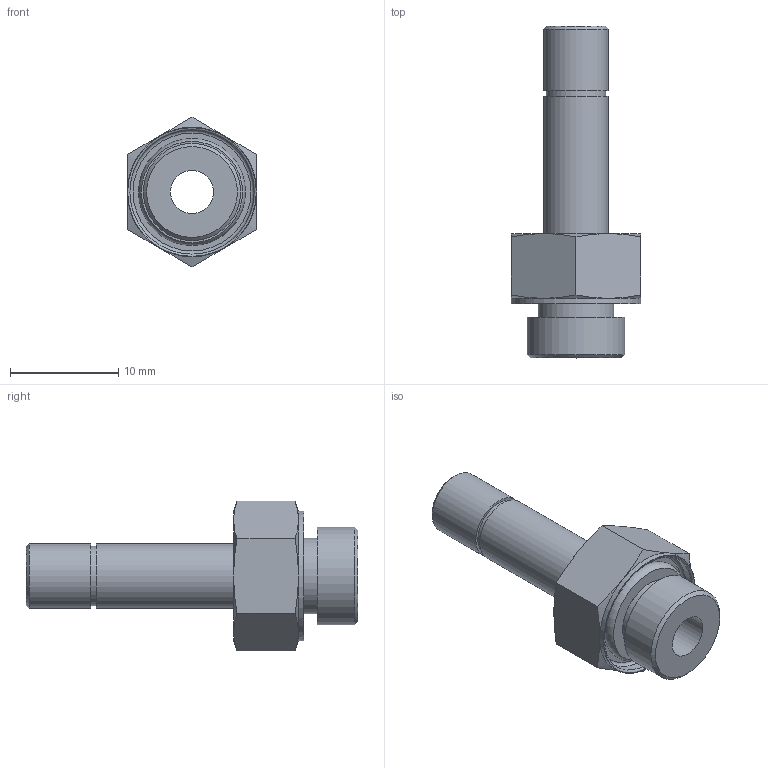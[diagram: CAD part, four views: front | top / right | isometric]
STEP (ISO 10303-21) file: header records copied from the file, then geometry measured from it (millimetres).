
FILE_DESCRIPTION(/* description */ (''),/* implementation_level */ '2;1');
FILE_NAME(/* name */ 'LXH16 0006 B1.stp',/* time_stamp */ '2026-04-29T15:25:21+02:00',/* author */ ('freju'),/* organization */ (''),/* preprocessor_version */ 'ST-DEVELOPER v20.1',/* originating_system */ 'Autodesk Inventor 2026',/* authorisation */ '');
FILE_SCHEMA (('AUTOMOTIVE_DESIGN { 1 0 10303 214 3 1 1 }'));
Length unit declared in the file: millimetre
Products named in the file (4): LXH15 0006 B1; LXH16 0006 B1; O-Ring; ISO 3601-1 - A 0063 G
Assembly tree (3 placements, depth 3):
  LXH15 0006 B1
    LXH16 0006 B1
    O-Ring
      ISO 3601-1 - A 0063 G
Bounding box: 12 x 30.7 x 13.86 mm (x, y, z)
Volume: 1202.8 mm3; surface area: 1634.9 mm2
Topology: 2 solids, 2 shells, 46 faces, 92 edges, 57 vertices
Faces by surface type: plane 17, cone 14, cylinder 9, torus 6
Full cylindrical faces by diameter (mm): 4 x1, 5.5 x1, 6 x2, 6.3 x1, 7 x1, 9 x1, 11.5 x1, 12 x1
Entity records: 1329 total; most frequent: CARTESIAN_POINT 250, DIRECTION 225, ORIENTED_EDGE 184, AXIS2_PLACEMENT_3D 104, EDGE_CURVE 92, EDGE_LOOP 57, VERTEX_POINT 57, CIRCLE 51
